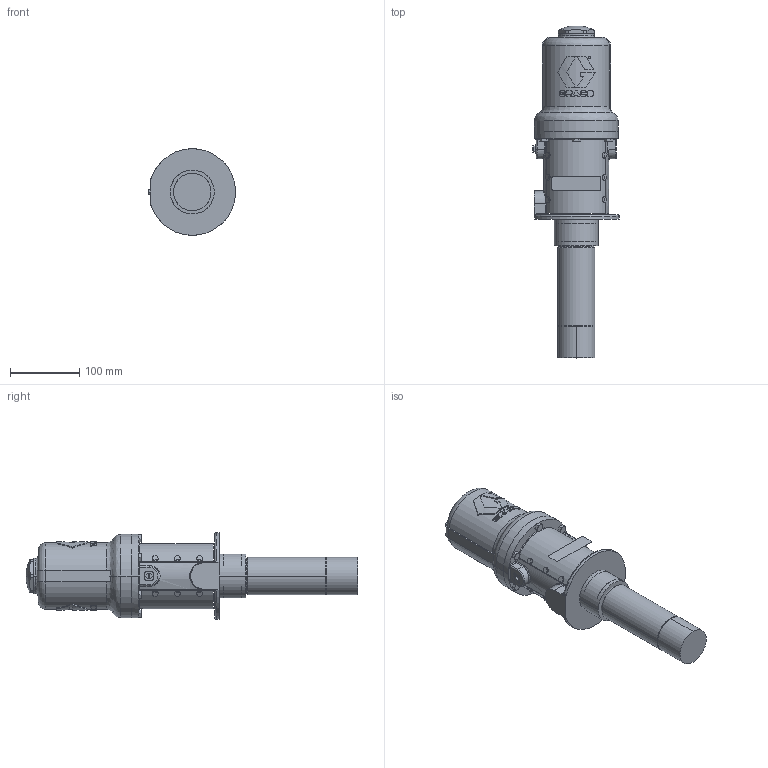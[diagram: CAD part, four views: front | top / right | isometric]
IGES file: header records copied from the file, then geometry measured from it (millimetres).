
Start section:  PTC IGES file: 248097-en-v.igs
Global section: file name: 248097-en-v.igs; native system: Creo Parametric by PTC Inc.; preprocessor: 2021072; author: qtmwp1; organization: Unknown; date: 20240221.093813; units: inch
Bounding box: 125.39 x 479.27 x 124.81 mm (x, y, z)
Surface area: 174123.5 mm2 (no closed solid volume)
Topology: 0 solids, 0 shells, 341 faces, 1644 edges, 1644 vertices
Faces by surface type: bspline 169, revolution 166, extrusion 6
